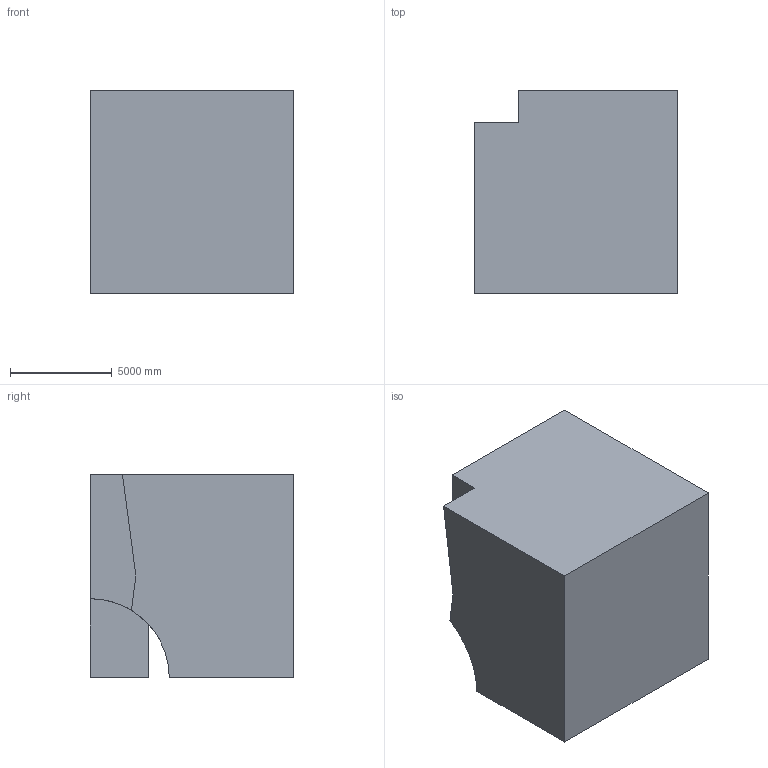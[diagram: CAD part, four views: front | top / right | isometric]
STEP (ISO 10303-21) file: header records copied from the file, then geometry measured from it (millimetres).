
FILE_DESCRIPTION (( 'STEP AP203' ), '1' );
FILE_NAME ('207.STEP', '2022-07-28T13:54:18', ( 'user' ), ( '' ), 'SwSTEP 2.0', 'SolidWorks 2021', '' );
FILE_SCHEMA (( 'CONFIG_CONTROL_DESIGN' ));
Length unit declared in the file: centimetre
Products named in the file (1): 207
Bounding box: 10000 x 10000 x 10000 mm (x, y, z)
Volume: 863883240503 mm3; surface area: 605557052.2 mm2
Topology: 1 solids, 1 shells, 17 faces, 45 edges, 30 vertices
Faces by surface type: plane 14, cylinder 3
Entity records: 696 total; most frequent: CARTESIAN_POINT 191, ORIENTED_EDGE 90, DIRECTION 85, EDGE_CURVE 45, VECTOR 37, LINE 37, VERTEX_POINT 30, AXIS2_PLACEMENT_3D 24
